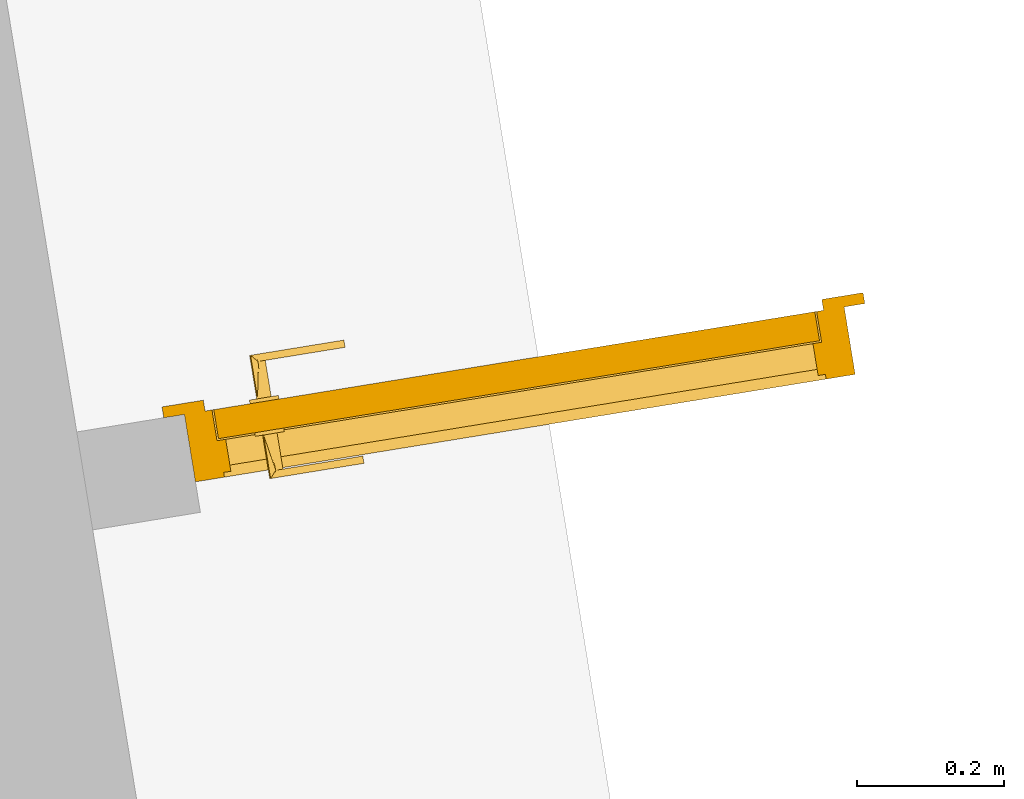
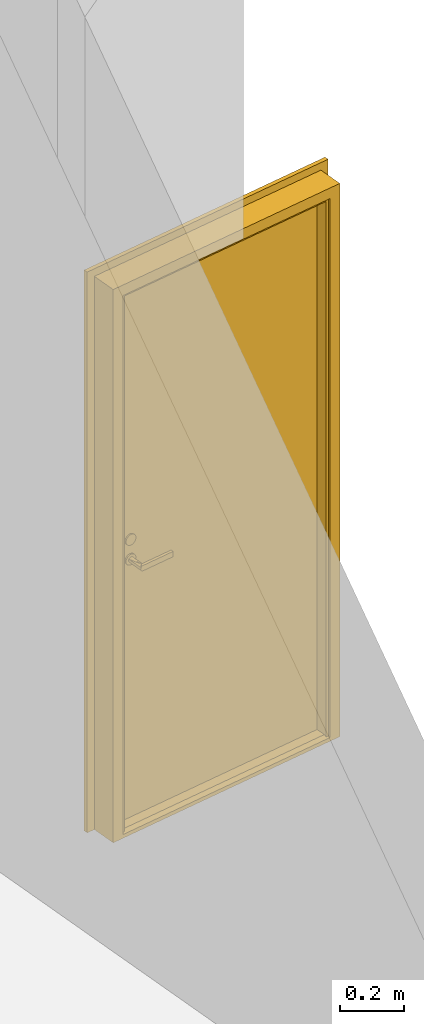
# One storey, part 18 of 18: 1 door.
"""IFC2X3 building model written with IfcOpenShell, lengths in millimetres."""

from ifc_helpers import new_model, entity, si_unit, converted_unit, derived_unit, direction, frame, origin, origin_with_axes, place, context, subcontext, project, spatial, faceted_brep, source, transform, mapped, material, material_list, type_object, element, save


model = new_model("IFC2X3")

# Units and contexts
model_context = context("Model", 3, precision=0.01, world=origin(), true_north=direction((6.12323399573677e-17, 1.0)))
plan_context = context("Plan", 3, precision=1e-05, world=origin_with_axes())
body_context = subcontext(model_context, "Body", "Model", "MODEL_VIEW")
ifc_project = project(units=[converted_unit("PLANEANGLEUNIT", "DEGREE", entity("IfcPositiveLengthMeasure", 0.0174532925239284), si_unit("PLANEANGLEUNIT", "RADIAN"), dimensions=[0, 0, 0, 0, 0, 0, 0]), si_unit("AREAUNIT", "SQUARE_METRE"), si_unit("LENGTHUNIT", "METRE", prefix="MILLI"), si_unit("MASSUNIT", "GRAM", prefix="KILO"), si_unit("POWERUNIT", "WATT"), si_unit("PRESSUREUNIT", "PASCAL", prefix="KILO"), si_unit("FORCEUNIT", "NEWTON", prefix="KILO"), si_unit("ELECTRICVOLTAGEUNIT", "VOLT"), si_unit("ELECTRICCURRENTUNIT", "AMPERE"), si_unit("THERMODYNAMICTEMPERATUREUNIT", "DEGREE_CELSIUS"), si_unit("TIMEUNIT", "SECOND"), si_unit("VOLUMEUNIT", "CUBIC_METRE"), derived_unit("LINEARVELOCITYUNIT", [(si_unit("LENGTHUNIT", "METRE"), 1), (si_unit("TIMEUNIT", "SECOND"), -1)]), derived_unit("VOLUMETRICFLOWRATEUNIT", [(si_unit("VOLUMEUNIT", "CUBIC_METRE"), 1), (si_unit("TIMEUNIT", "SECOND"), -1)]), derived_unit("THERMALTRANSMITTANCEUNIT", [(si_unit("POWERUNIT", "WATT"), 1), (si_unit("THERMODYNAMICTEMPERATUREUNIT", "KELVIN"), -1), (si_unit("AREAUNIT", "SQUARE_METRE"), -1)]), derived_unit("SOUNDPRESSUREUNIT", [(si_unit("PRESSUREUNIT", "PASCAL"), 1)])], contexts=[model_context, plan_context])

# Site, building, storey
site_placement = place(None, frame((-305029.896016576, -232111.759730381, 0.0), z_axis=(0.0, 0.0, 1.0), x_axis=(-0.160806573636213, 0.986985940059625, 0.0)))
site = spatial("IfcSite", under=ifc_project, at=site_placement, Name="Default", CompositionType="ELEMENT")
building_placement = place(site_placement, frame((0.0, 0.0, 0.0), z_axis=(0.0, 0.0, 1.0), x_axis=(1.0, -2.77555756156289e-17, 0.0)))
building = spatial("IfcBuilding", under=site, at=building_placement, Name="br001-a-200-1-0001", CompositionType="ELEMENT")
storey_placement = place(building_placement, frame((0.0, 0.0, 55500.0), z_axis=(0.0, 0.0, 1.0), x_axis=(1.0, -2.77555756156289e-17, 0.0)))
storey = spatial("IfcBuildingStorey", under=building, at=storey_placement, Name="H02-Nivå F-3,5 m", CompositionType="ELEMENT", Elevation=55500.0)

# Door
ifc_material_1 = material(Name="<Unnamed>")
ifc_material_2 = material(Name="_NSW Dør - dørblad, hvit")
ifc_material_3 = material(Name="_NSW Dør - terskel, tre")
ifc_material_4 = material(Name="_NSW Dør - listverk, hvit")
ifc_material_list = material_list([ifc_material_1, ifc_material_2, ifc_material_3, ifc_material_4])
door_style = type_object("IfcDoorStyle", Name="NSW Innvendig slagdør, enkel:9M x 21M", ConstructionType="NOTDEFINED", OperationType="NOTDEFINED", ParameterTakesPrecedence=False, Sizeable=False, material=ifc_material_list)
shared_shape = source(origin(), body_context, "Body", "Brep", [
    faceted_brep([(-122.179491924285, 90.0, 1065.50000000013), (-120.181483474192, 90.0, 1070.32361909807), (-119.499999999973, 90.0, 1075.50000000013), (-120.181483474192, 90.0, 1080.67638090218), (-122.179491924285, 90.0, 1085.50000000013), (-125.357864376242, 90.0, 1089.64213562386), (-129.499999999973, 90.0, 1092.82050807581), (-134.323619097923, 90.0, 1094.81851652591), (-139.499999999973, 90.0, 1095.50000000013), (-144.676380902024, 90.0, 1094.81851652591), (-149.499999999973, 90.0, 1092.82050807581), (-153.642135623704, 90.0, 1089.64213562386), (-156.820508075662, 90.0, 1085.50000000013), (-158.818516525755, 90.0, 1080.67638090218), (-159.499999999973, 90.0, 1075.50000000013), (-158.818516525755, 90.0, 1070.32361909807), (-156.820508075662, 90.0, 1065.50000000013), (-153.642135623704, 90.0, 1061.35786437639), (-149.499999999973, 90.0, 1058.17949192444), (-144.676380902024, 90.0, 1056.18148347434), (-139.499999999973, 90.0, 1055.50000000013), (-134.323619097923, 90.0, 1056.18148347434), (-129.499999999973, 90.0, 1058.17949192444), (-125.357864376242, 90.0, 1061.35786437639), (-139.499999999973, 95.0, 1095.50000000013), (-134.323619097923, 95.0, 1094.81851652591), (-129.499999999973, 95.0, 1092.82050807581), (-125.357864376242, 95.0, 1089.64213562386), (-122.179491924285, 95.0, 1085.50000000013), (-120.181483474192, 95.0, 1080.67638090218), (-119.499999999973, 95.0, 1075.50000000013), (-120.181483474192, 95.0, 1070.32361909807), (-122.179491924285, 95.0, 1065.50000000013), (-125.357864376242, 95.0, 1061.35786437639), (-129.499999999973, 95.0, 1058.17949192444), (-134.323619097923, 95.0, 1056.18148347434), (-139.499999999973, 95.0, 1055.50000000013), (-144.676380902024, 95.0, 1056.18148347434), (-149.499999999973, 95.0, 1058.17949192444), (-153.642135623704, 95.0, 1061.35786437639), (-156.820508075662, 95.0, 1065.50000000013), (-158.818516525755, 95.0, 1070.32361909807), (-159.499999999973, 95.0, 1075.50000000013), (-158.818516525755, 95.0, 1080.67638090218), (-156.820508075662, 95.0, 1085.50000000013), (-153.642135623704, 95.0, 1089.64213562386), (-149.499999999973, 95.0, 1092.82050807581), (-144.676380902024, 95.0, 1094.81851652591)], [[[0, 1, 2, 3, 4, 5, 6, 7, 8, 9, 10, 11, 12, 13, 14, 15, 16, 17, 18, 19, 20, 21, 22, 23]], [[24, 25, 26, 27, 28, 29, 30, 31, 32, 33, 34, 35, 36, 37, 38, 39, 40, 41, 42, 43, 44, 45, 46, 47]], [[41, 15, 14, 42]], [[40, 16, 15, 41]], [[18, 17, 39, 38]], [[40, 39, 17, 16]], [[19, 18, 38, 37]], [[20, 19, 37, 36]], [[35, 21, 20, 36]], [[34, 22, 21, 35]], [[0, 23, 33, 32]], [[34, 33, 23, 22]], [[1, 0, 32, 31]], [[2, 1, 31, 30]], [[29, 3, 2, 30]], [[28, 4, 3, 29]], [[6, 5, 27, 26]], [[28, 27, 5, 4]], [[7, 6, 26, 25]], [[8, 7, 25, 24]], [[47, 9, 8, 24]], [[46, 10, 9, 47]], [[12, 11, 45, 44]], [[46, 45, 11, 10]], [[13, 12, 44, 43]], [[14, 13, 43, 42]]]),
    faceted_brep([(-139.499999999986, 30.0, 990.500000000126), (-19.499999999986, 30.0, 990.500000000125), (-19.499999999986, 30.0, 1010.50000000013), (-139.499999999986, 30.0, 1010.50000000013), (-142.088190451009, 30.0, 1010.15925826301), (-144.499999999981, 30.0, 1009.16025403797), (-146.571067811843, 30.0, 1007.57106781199), (-148.16025403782, 30.0, 1005.50000000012), (-149.159258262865, 30.0, 1003.08819045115), (-149.499999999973, 30.0, 1000.50000000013), (-149.159258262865, 30.0, 997.911809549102), (-148.16025403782, 30.0, 995.500000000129), (-146.571067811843, 30.0, 993.428932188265), (-144.499999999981, 30.0, 991.839745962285), (-142.088190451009, 30.0, 990.840741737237), (-136.911809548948, 40.0, 990.840741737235), (-134.499999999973, 40.0, 991.839745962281), (-132.428932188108, 40.0, 993.42893218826), (-130.839745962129, 40.0, 995.500000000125), (-129.840741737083, 40.0, 997.9118095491), (-129.499999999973, 40.0, 1000.50000000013), (-129.840741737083, 40.0, 1003.08819045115), (-130.839745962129, 40.0, 1005.50000000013), (-132.428932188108, 40.0, 1007.57106781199), (-134.499999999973, 40.0, 1009.16025403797), (-136.911809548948, 40.0, 1010.15925826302), (-139.499999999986, 40.0, 1010.50000000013), (-19.499999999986, 40.0, 1010.50000000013), (-19.499999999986, 40.0, 990.500000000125), (-139.499999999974, 40.0, 990.500000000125), (-139.499999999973, 90.0, 1010.50000000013), (-136.911809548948, 90.0, 1010.15925826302), (-134.499999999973, 90.0, 1009.16025403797), (-132.428932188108, 90.0, 1007.57106781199), (-130.839745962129, 90.0, 1005.50000000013), (-129.840741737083, 90.0, 1003.08819045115), (-129.499999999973, 90.0, 1000.50000000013), (-129.840741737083, 90.0, 997.9118095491), (-130.839745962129, 90.0, 995.500000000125), (-132.428932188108, 90.0, 993.42893218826), (-134.499999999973, 90.0, 991.839745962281), (-136.911809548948, 90.0, 990.840741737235), (-139.499999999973, 90.0, 990.500000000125), (-142.088190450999, 90.0, 990.840741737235), (-144.499999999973, 90.0, 991.839745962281), (-146.571067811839, 90.0, 993.42893218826), (-148.160254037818, 90.0, 995.500000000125), (-149.159258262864, 90.0, 997.9118095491), (-149.499999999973, 90.0, 1000.50000000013), (-149.159258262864, 90.0, 1003.08819045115), (-148.160254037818, 90.0, 1005.50000000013), (-146.571067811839, 90.0, 1007.57106781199), (-144.499999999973, 90.0, 1009.16025403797), (-142.088190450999, 90.0, 1010.15925826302)], [[[0, 1, 2, 3, 4, 5, 6, 7, 8, 9, 10, 11, 12, 13, 14]], [[15, 16, 17, 18, 19, 20, 21, 22, 23, 24, 25, 26, 27, 28, 29]], [[1, 0, 29, 28]], [[2, 1, 28, 27]], [[3, 2, 27, 26]], [[30, 31, 32, 33, 34, 35, 36, 37, 38, 39, 40, 41, 42, 43, 44, 45, 46, 47, 48, 49, 50, 51, 52, 53]], [[47, 10, 9, 48]], [[46, 11, 10, 47]], [[46, 45, 29]], [[29, 11, 46]], [[45, 44, 29]], [[29, 14, 13]], [[13, 12, 29]], [[29, 12, 11]], [[29, 0, 14]], [[42, 29, 43]], [[29, 44, 43]], [[41, 15, 29, 42]], [[40, 16, 15, 41]], [[18, 17, 39, 38]], [[38, 37, 19, 18]], [[40, 39, 17, 16]], [[36, 20, 19, 37]], [[35, 21, 20, 36]], [[34, 22, 21, 35]], [[24, 23, 33, 32]], [[34, 33, 23, 22]], [[25, 24, 32, 31]], [[25, 31, 30, 26]], [[53, 26, 30]], [[26, 4, 3]], [[52, 26, 53]], [[26, 51, 50]], [[50, 49, 8, 7]], [[52, 51, 26]], [[48, 9, 8, 49]], [[26, 5, 4]], [[5, 26, 6]], [[7, 6, 26]], [[7, 26, 50]]]),
    faceted_brep([(-129.499999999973, 90.0, 983.179491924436), (-125.357864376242, 90.0, 986.357864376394), (-122.179491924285, 90.0, 990.500000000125), (-120.181483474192, 90.0, 995.323619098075), (-119.499999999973, 90.0, 1000.50000000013), (-120.181483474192, 90.0, 1005.67638090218), (-122.179491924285, 90.0, 1010.50000000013), (-125.357864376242, 90.0, 1014.64213562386), (-129.499999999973, 90.0, 1017.82050807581), (-134.323619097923, 90.0, 1019.81851652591), (-139.499999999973, 90.0, 1020.50000000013), (-144.676380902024, 90.0, 1019.81851652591), (-149.499999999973, 90.0, 1017.82050807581), (-153.642135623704, 90.0, 1014.64213562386), (-156.820508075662, 90.0, 1010.50000000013), (-158.818516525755, 90.0, 1005.67638090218), (-159.499999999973, 90.0, 1000.50000000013), (-158.818516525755, 90.0, 995.323619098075), (-156.820508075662, 90.0, 990.500000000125), (-153.642135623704, 90.0, 986.357864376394), (-149.499999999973, 90.0, 983.179491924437), (-144.676380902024, 90.0, 981.181483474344), (-139.499999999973, 90.0, 980.500000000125), (-134.323619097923, 90.0, 981.181483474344), (-139.499999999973, 95.0, 1020.50000000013), (-134.323619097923, 95.0, 1019.81851652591), (-129.499999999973, 95.0, 1017.82050807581), (-125.357864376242, 95.0, 1014.64213562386), (-122.179491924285, 95.0, 1010.50000000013), (-120.181483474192, 95.0, 1005.67638090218), (-119.499999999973, 95.0, 1000.50000000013), (-120.181483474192, 95.0, 995.323619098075), (-122.179491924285, 95.0, 990.500000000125), (-125.357864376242, 95.0, 986.357864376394), (-129.499999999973, 95.0, 983.179491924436), (-134.323619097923, 95.0, 981.181483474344), (-139.499999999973, 95.0, 980.500000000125), (-144.676380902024, 95.0, 981.181483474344), (-149.499999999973, 95.0, 983.179491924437), (-153.642135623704, 95.0, 986.357864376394), (-156.820508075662, 95.0, 990.500000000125), (-158.818516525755, 95.0, 995.323619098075), (-159.499999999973, 95.0, 1000.50000000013), (-158.818516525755, 95.0, 1005.67638090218), (-156.820508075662, 95.0, 1010.50000000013), (-153.642135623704, 95.0, 1014.64213562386), (-149.499999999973, 95.0, 1017.82050807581), (-144.676380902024, 95.0, 1019.81851652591)], [[[0, 1, 2, 3, 4, 5, 6, 7, 8, 9, 10, 11, 12, 13, 14, 15, 16, 17, 18, 19, 20, 21, 22, 23]], [[24, 25, 26, 27, 28, 29, 30, 31, 32, 33, 34, 35, 36, 37, 38, 39, 40, 41, 42, 43, 44, 45, 46, 47]], [[41, 17, 16, 42]], [[40, 18, 17, 41]], [[20, 19, 39, 38]], [[40, 39, 19, 18]], [[21, 20, 38, 37]], [[22, 21, 37, 36]], [[35, 23, 22, 36]], [[34, 0, 23, 35]], [[2, 1, 33, 32]], [[34, 33, 1, 0]], [[3, 2, 32, 31]], [[4, 3, 31, 30]], [[29, 5, 4, 30]], [[28, 6, 5, 29]], [[8, 7, 27, 26]], [[28, 27, 7, 6]], [[9, 8, 26, 25]], [[10, 9, 25, 24]], [[47, 11, 10, 24]], [[46, 12, 11, 47]], [[14, 13, 45, 44]], [[46, 45, 13, 12]], [[15, 14, 44, 43]], [[16, 15, 43, 42]]]),
    faceted_brep([(-129.499999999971, 140.0, 1058.17949192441), (-134.323619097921, 140.0, 1056.18148347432), (-139.499999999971, 140.0, 1055.5000000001), (-144.676380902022, 140.0, 1056.18148347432), (-149.499999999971, 140.0, 1058.17949192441), (-153.642135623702, 140.0, 1061.35786437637), (-156.82050807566, 140.0, 1065.5000000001), (-158.818516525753, 140.0, 1070.32361909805), (-159.499999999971, 140.0, 1075.5000000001), (-158.818516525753, 140.0, 1080.67638090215), (-156.82050807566, 140.0, 1085.5000000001), (-153.642135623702, 140.0, 1089.64213562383), (-149.499999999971, 140.0, 1092.82050807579), (-144.676380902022, 140.0, 1094.81851652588), (-139.499999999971, 140.0, 1095.5000000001), (-134.323619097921, 140.0, 1094.81851652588), (-129.499999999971, 140.0, 1092.82050807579), (-125.35786437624, 140.0, 1089.64213562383), (-122.179491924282, 140.0, 1085.5000000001), (-120.18148347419, 140.0, 1080.67638090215), (-119.499999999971, 140.0, 1075.5000000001), (-120.18148347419, 140.0, 1070.32361909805), (-122.179491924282, 140.0, 1065.5000000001), (-125.35786437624, 140.0, 1061.35786437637), (-129.499999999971, 135.0, 1092.82050807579), (-134.323619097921, 135.0, 1094.81851652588), (-139.499999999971, 135.0, 1095.5000000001), (-144.676380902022, 135.0, 1094.81851652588), (-149.499999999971, 135.0, 1092.82050807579), (-153.642135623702, 135.0, 1089.64213562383), (-156.82050807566, 135.0, 1085.5000000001), (-158.818516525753, 135.0, 1080.67638090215), (-159.499999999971, 135.0, 1075.5000000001), (-158.818516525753, 135.0, 1070.32361909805), (-156.82050807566, 135.0, 1065.5000000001), (-153.642135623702, 135.0, 1061.35786437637), (-149.499999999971, 135.0, 1058.17949192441), (-144.676380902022, 135.0, 1056.18148347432), (-139.499999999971, 135.0, 1055.5000000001), (-134.323619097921, 135.0, 1056.18148347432), (-129.499999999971, 135.0, 1058.17949192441), (-125.35786437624, 135.0, 1061.35786437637), (-122.179491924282, 135.0, 1065.5000000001), (-120.18148347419, 135.0, 1070.32361909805), (-119.499999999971, 135.0, 1075.5000000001), (-120.18148347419, 135.0, 1080.67638090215), (-122.179491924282, 135.0, 1085.5000000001), (-125.35786437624, 135.0, 1089.64213562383)], [[[0, 1, 2, 3, 4, 5, 6, 7, 8, 9, 10, 11, 12, 13, 14, 15, 16, 17, 18, 19, 20, 21, 22, 23]], [[24, 25, 26, 27, 28, 29, 30, 31, 32, 33, 34, 35, 36, 37, 38, 39, 40, 41, 42, 43, 44, 45, 46, 47]], [[32, 8, 7, 33]], [[33, 7, 6, 34]], [[36, 35, 5, 4]], [[5, 35, 34, 6]], [[37, 36, 4, 3]], [[37, 3, 2, 38]], [[38, 2, 1, 39]], [[39, 1, 0, 40]], [[42, 41, 23, 22]], [[23, 41, 40, 0]], [[43, 42, 22, 21]], [[43, 21, 20, 44]], [[44, 20, 19, 45]], [[45, 19, 18, 46]], [[24, 47, 17, 16]], [[17, 47, 46, 18]], [[25, 24, 16, 15]], [[25, 15, 14, 26]], [[26, 14, 13, 27]], [[27, 13, 12, 28]], [[30, 29, 11, 10]], [[11, 29, 28, 12]], [[31, 30, 10, 9]], [[31, 9, 8, 32]]]),
    faceted_brep([(-146.571067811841, 200.0, 1007.57106781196), (-144.499999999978, 200.0, 1009.16025403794), (-142.088190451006, 200.0, 1010.15925826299), (-139.499999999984, 200.0, 1010.5000000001), (-19.4999999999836, 200.0, 1010.5000000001), (-19.4999999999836, 200.0, 990.500000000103), (-139.499999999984, 200.0, 990.500000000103), (-142.088190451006, 200.0, 990.840741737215), (-144.499999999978, 200.0, 991.839745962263), (-146.571067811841, 200.0, 993.428932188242), (-148.160254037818, 200.0, 995.500000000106), (-149.159258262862, 200.0, 997.91180954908), (-149.499999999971, 200.0, 1000.5000000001), (-149.159258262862, 200.0, 1003.08819045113), (-148.160254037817, 200.0, 1005.5000000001), (-19.4999999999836, 190.0, 990.500000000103), (-19.4999999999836, 190.0, 1010.5000000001), (-139.499999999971, 190.0, 1010.5000000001), (-136.911809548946, 190.0, 1010.15925826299), (-134.499999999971, 190.0, 1009.16025403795), (-132.428932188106, 190.0, 1007.57106781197), (-130.839745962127, 190.0, 1005.5000000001), (-129.84074173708, 190.0, 1003.08819045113), (-129.499999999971, 190.0, 1000.5000000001), (-129.84074173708, 190.0, 997.911809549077), (-130.839745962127, 190.0, 995.500000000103), (-132.428932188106, 190.0, 993.428932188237), (-134.499999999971, 190.0, 991.839745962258), (-136.911809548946, 190.0, 990.840741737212), (-139.499999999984, 190.0, 990.500000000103), (-134.499999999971, 140.0, 1009.16025403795), (-136.911809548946, 140.0, 1010.15925826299), (-139.499999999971, 140.0, 1010.5000000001), (-142.088190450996, 140.0, 1010.15925826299), (-144.499999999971, 140.0, 1009.16025403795), (-146.571067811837, 140.0, 1007.57106781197), (-148.160254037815, 140.0, 1005.5000000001), (-149.159258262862, 140.0, 1003.08819045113), (-149.499999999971, 140.0, 1000.5000000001), (-149.159258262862, 140.0, 997.911809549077), (-148.160254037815, 140.0, 995.500000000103), (-146.571067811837, 140.0, 993.428932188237), (-144.499999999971, 140.0, 991.839745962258), (-142.088190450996, 140.0, 990.840741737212), (-139.499999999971, 140.0, 990.500000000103), (-136.911809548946, 140.0, 990.840741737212), (-134.499999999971, 140.0, 991.839745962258), (-132.428932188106, 140.0, 993.428932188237), (-130.839745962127, 140.0, 995.500000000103), (-129.84074173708, 140.0, 997.911809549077), (-129.499999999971, 140.0, 1000.5000000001), (-129.84074173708, 140.0, 1003.08819045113), (-130.839745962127, 140.0, 1005.5000000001), (-132.428932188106, 140.0, 1007.57106781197)], [[[0, 1, 2, 3, 4, 5, 6, 7, 8, 9, 10, 11, 12, 13, 14]], [[15, 16, 17, 18, 19, 20, 21, 22, 23, 24, 25, 26, 27, 28, 29]], [[29, 6, 5, 15]], [[15, 5, 4, 16]], [[16, 4, 3, 17]], [[30, 31, 32, 33, 34, 35, 36, 37, 38, 39, 40, 41, 42, 43, 44, 45, 46, 47, 48, 49, 50, 51, 52, 53]], [[38, 12, 11, 39]], [[39, 11, 10, 40]], [[29, 41, 40]], [[40, 10, 29]], [[29, 42, 41]], [[8, 7, 29]], [[29, 9, 8]], [[10, 9, 29]], [[7, 6, 29]], [[43, 29, 44]], [[43, 42, 29]], [[44, 29, 28, 45]], [[45, 28, 27, 46]], [[48, 47, 26, 25]], [[24, 49, 48, 25]], [[26, 47, 46, 27]], [[49, 24, 23, 50]], [[50, 23, 22, 51]], [[51, 22, 21, 52]], [[30, 53, 20, 19]], [[20, 53, 52, 21]], [[31, 30, 19, 18]], [[17, 32, 31, 18]], [[32, 17, 33]], [[3, 2, 17]], [[33, 17, 34]], [[36, 35, 17]], [[13, 37, 36, 14]], [[17, 35, 34]], [[37, 13, 12, 38]], [[2, 1, 17]], [[0, 17, 1]], [[17, 0, 14]], [[36, 17, 14]]]),
    faceted_brep([(-134.323619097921, 140.0, 981.181483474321), (-139.499999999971, 140.0, 980.500000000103), (-144.676380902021, 140.0, 981.181483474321), (-149.499999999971, 140.0, 983.179491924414), (-153.642135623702, 140.0, 986.357864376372), (-156.82050807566, 140.0, 990.500000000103), (-158.818516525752, 140.0, 995.323619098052), (-159.499999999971, 140.0, 1000.5000000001), (-158.818516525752, 140.0, 1005.67638090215), (-156.82050807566, 140.0, 1010.5000000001), (-153.642135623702, 140.0, 1014.64213562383), (-149.499999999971, 140.0, 1017.82050807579), (-144.676380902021, 140.0, 1019.81851652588), (-139.499999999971, 140.0, 1020.5000000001), (-134.323619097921, 140.0, 1019.81851652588), (-129.499999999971, 140.0, 1017.82050807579), (-125.35786437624, 140.0, 1014.64213562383), (-122.179491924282, 140.0, 1010.5000000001), (-120.18148347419, 140.0, 1005.67638090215), (-119.499999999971, 140.0, 1000.5000000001), (-120.18148347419, 140.0, 995.323619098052), (-122.179491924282, 140.0, 990.500000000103), (-125.35786437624, 140.0, 986.357864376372), (-129.499999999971, 140.0, 983.179491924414), (-129.499999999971, 135.0, 1017.82050807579), (-134.323619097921, 135.0, 1019.81851652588), (-139.499999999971, 135.0, 1020.5000000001), (-144.676380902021, 135.0, 1019.81851652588), (-149.499999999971, 135.0, 1017.82050807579), (-153.642135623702, 135.0, 1014.64213562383), (-156.82050807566, 135.0, 1010.5000000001), (-158.818516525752, 135.0, 1005.67638090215), (-159.499999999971, 135.0, 1000.5000000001), (-158.818516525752, 135.0, 995.323619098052), (-156.82050807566, 135.0, 990.500000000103), (-153.642135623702, 135.0, 986.357864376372), (-149.499999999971, 135.0, 983.179491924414), (-144.676380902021, 135.0, 981.181483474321), (-139.499999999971, 135.0, 980.500000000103), (-134.323619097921, 135.0, 981.181483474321), (-129.499999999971, 135.0, 983.179491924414), (-125.35786437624, 135.0, 986.357864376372), (-122.179491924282, 135.0, 990.500000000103), (-120.18148347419, 135.0, 995.323619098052), (-119.499999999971, 135.0, 1000.5000000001), (-120.18148347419, 135.0, 1005.67638090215), (-122.179491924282, 135.0, 1010.5000000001), (-125.35786437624, 135.0, 1014.64213562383)], [[[0, 1, 2, 3, 4, 5, 6, 7, 8, 9, 10, 11, 12, 13, 14, 15, 16, 17, 18, 19, 20, 21, 22, 23]], [[24, 25, 26, 27, 28, 29, 30, 31, 32, 33, 34, 35, 36, 37, 38, 39, 40, 41, 42, 43, 44, 45, 46, 47]], [[32, 7, 6, 33]], [[33, 6, 5, 34]], [[36, 35, 4, 3]], [[4, 35, 34, 5]], [[37, 36, 3, 2]], [[37, 2, 1, 38]], [[38, 1, 0, 39]], [[39, 0, 23, 40]], [[42, 41, 22, 21]], [[22, 41, 40, 23]], [[43, 42, 21, 20]], [[43, 20, 19, 44]], [[44, 19, 18, 45]], [[45, 18, 17, 46]], [[24, 47, 16, 15]], [[16, 47, 46, 17]], [[25, 24, 15, 14]], [[25, 14, 13, 26]], [[26, 13, 12, 27]], [[27, 12, 11, 28]], [[30, 29, 10, 9]], [[10, 29, 28, 11]], [[31, 30, 9, 8]], [[31, 8, 7, 32]]]),
    faceted_brep([(619.500000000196, 95.0, 2059.0), (-209.499999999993, 95.0, 2059.0), (-209.499999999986, 95.0, 18.0), (619.500000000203, 95.0, 18.0), (619.500000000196, 135.0, 2059.0), (619.500000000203, 135.0, 18.0), (-209.499999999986, 135.0, 18.0), (-209.499999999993, 135.0, 2059.0)], [[[0, 1, 2, 3]], [[4, 5, 6, 7]], [[3, 5, 4, 0]], [[2, 6, 5, 3]], [[1, 7, 6, 2]], [[0, 4, 7, 1]]]),
    faceted_brep([(622.0, 135.0, 0.0), (660.0, 135.0, 0.0), (660.0, 42.0, 0.0), (620.0, 42.0, 0.0), (620.0, 48.5000000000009, 0.0), (610.0, 48.5000000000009, 0.0), (610.0, 92.5000000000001, 0.0), (622.0, 92.5000000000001, 0.0), (622.0, 92.5000000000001, 2062.0), (622.0, 135.0, 2062.0), (610.0, 92.5000000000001, 2050.0), (-200.0, 92.5000000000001, 2050.0), (-200.0, 92.5000000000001, 0.0), (-212.0, 92.5000000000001, 0.0), (-212.0, 92.5000000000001, 2062.0), (610.0, 48.5000000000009, 2050.0), (620.0, 48.5000000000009, 2060.0), (-210.0, 48.5000000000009, 2060.0), (-210.0, 48.5000000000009, 0.0), (-200.0, 48.5000000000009, 0.0), (-200.0, 48.5000000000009, 2050.0), (620.0, 42.0, 2060.0), (660.0, 42.0, 2100.0), (-250.0, 42.0, 2100.0), (-250.0, 42.0, 0.0), (-210.0, 42.0, 0.0), (-210.0, 42.0, 2060.0), (660.0, 135.0, 2100.0), (-212.0, 135.0, 2062.0), (-212.0, 135.0, 0.0), (-250.0, 135.0, 0.0), (-250.0, 135.0, 2100.0)], [[[0, 1, 2, 3, 4, 5, 6, 7]], [[7, 8, 9, 0]], [[6, 10, 11, 12, 13, 14, 8, 7]], [[5, 15, 10, 6]], [[4, 16, 17, 18, 19, 20, 15, 5]], [[3, 21, 16, 4]], [[2, 22, 23, 24, 25, 26, 21, 3]], [[1, 27, 22, 2]], [[0, 9, 28, 29, 30, 31, 27, 1]], [[8, 14, 28, 9]], [[15, 20, 11, 10]], [[21, 26, 17, 16]], [[27, 31, 23, 22]], [[29, 13, 12, 19, 18, 25, 24, 30]], [[14, 13, 29, 28]], [[20, 19, 12, 11]], [[26, 25, 18, 17]], [[31, 30, 24, 23]]]),
    faceted_brep([(-212.0, 135.0, 0.0), (-212.0, 135.0, 14.0), (622.0, 135.0, 14.0), (622.0, 135.0, 0.0), (-212.0, 92.5, 14.0), (-200.0, 92.4999999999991, 14.0), (610.0, 92.5, 14.0), (622.0, 92.5000000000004, 14.0), (-200.0, 92.4999999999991, 22.0), (610.0, 92.5000000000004, 22.0), (-200.0, 57.0, 22.0), (610.0, 57.0, 22.0), (-200.0, 48.5000000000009, 17.4666666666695), (-210.0, 48.5000000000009, 17.4666666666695), (-210.0, 42.0, 14.0), (620.0, 42.0, 14.0), (620.0, 48.5000000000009, 17.4666666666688), (610.0, 48.5000000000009, 17.4666666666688), (-210.0, 42.0, 0.0), (620.0, 42.0, 0.0), (622.0, 92.5, 0.0), (610.0, 92.5, 0.0), (610.0, 48.5000000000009, 0.0), (620.0, 48.5000000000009, 0.0), (-210.0, 48.5000000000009, 0.0), (-200.0, 48.5000000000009, 0.0), (-200.0, 92.5, 0.0), (-212.0, 92.5, 0.0)], [[[0, 1, 2, 3]], [[1, 4, 5, 6, 7, 2]], [[5, 8, 9, 6]], [[8, 10, 11, 9]], [[10, 12, 13, 14, 15, 16, 17, 11]], [[14, 18, 19, 15]], [[3, 20, 21, 22, 23, 19, 18, 24, 25, 26, 27, 0]], [[16, 15, 19, 23]], [[23, 22, 17, 16]], [[6, 9, 11, 17, 22, 21]], [[21, 20, 7, 6]], [[20, 3, 2, 7]], [[4, 1, 0, 27]], [[27, 26, 5, 4]], [[26, 25, 12, 10, 8, 5]], [[25, 24, 13, 12]], [[24, 18, 14, 13]]]),
    faceted_brep([(631.500000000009, 135.0, 0.0), (631.500000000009, 150.0, 0.0), (688.500000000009, 150.0, 0.0), (688.500000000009, 135.0, 0.0), (688.500000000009, 135.0, 2128.50000000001), (-278.499999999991, 135.0, 2128.50000000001), (-278.499999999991, 135.0, 0.0), (-221.499999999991, 135.0, 0.0), (-221.499999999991, 135.0, 2071.50000000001), (631.500000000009, 135.0, 2071.50000000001), (688.500000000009, 150.0, 2128.50000000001), (631.500000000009, 150.0, 2071.50000000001), (-221.499999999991, 150.0, 2071.50000000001), (-221.499999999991, 150.0, 0.0), (-278.499999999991, 150.0, 0.0), (-278.499999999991, 150.0, 2128.50000000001)], [[[0, 1, 2, 3]], [[3, 4, 5, 6, 7, 8, 9, 0]], [[2, 10, 4, 3]], [[1, 11, 12, 13, 14, 15, 10, 2]], [[0, 9, 11, 1]], [[10, 15, 5, 4]], [[9, 8, 12, 11]], [[7, 6, 14, 13]], [[15, 14, 6, 5]], [[8, 7, 13, 12]]]),
])
door_placement = place(storey_placement, frame((1175883.09858442, -734726.378367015, 0.0), z_axis=(0.0, 0.0, 1.0), x_axis=(-8.32667268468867e-17, -1.0, 0.0)))
element("IfcDoor", 1, at=door_placement, inside=storey, type_object=door_style, material=ifc_material_list, Name="NSW Innvendig slagdør, enkel:9M x 21M", ObjectType="NSW Innvendig slagdør, enkel:9M x 21M", OverallHeight=2100.00000000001, OverallWidth=910.000000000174, context=body_context, shape_type="MappedRepresentation", body=[
    mapped(shared_shape, transform((0.0, 0.0, 0.0), scale=1.0)),
])

save(model, "model.ifc")
